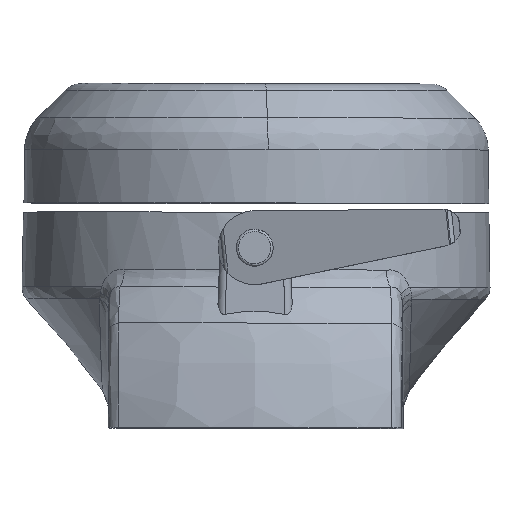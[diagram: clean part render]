
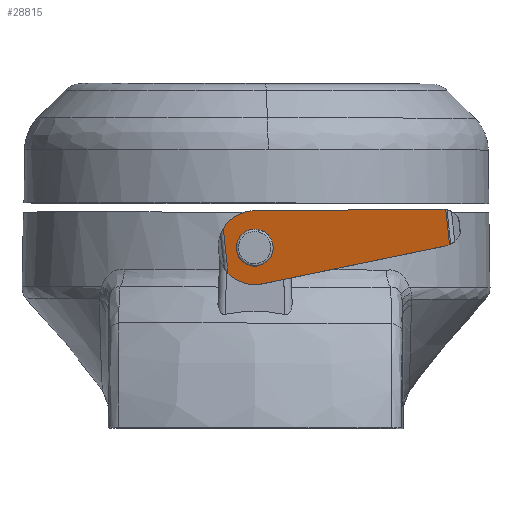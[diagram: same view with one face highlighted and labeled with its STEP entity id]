
A CAD part, top view. The second image highlights one B-rep face of the part: STEP entity #28815.
In plain terms, the highlighted planar face has unit normal (-0.261, -0.027, 0.965) as drawn and (-0.261, 0.004, -0.965) by its records, which use the part's own axes.
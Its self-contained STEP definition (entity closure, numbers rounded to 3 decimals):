
#100 = ORIENTED_EDGE ( 'NONE', *, *, #43390, .F. ) ;
#246 = VERTEX_POINT ( 'NONE', #23335 ) ;
#1150 = CARTESIAN_POINT ( 'NONE',  ( 670.309, 174.175, -76.2 ) ) ;
#1400 = CARTESIAN_POINT ( 'NONE',  ( 670.309, 174.175, -76.2 ) ) ;
#1597 =( BOUNDED_CURVE ( )  B_SPLINE_CURVE ( 3, ( #47116, #38352, #25344, #29072 ),
 .UNSPECIFIED., .F., .F. ) 
 B_SPLINE_CURVE_WITH_KNOTS ( ( 4, 4 ),
 ( 4.615, 5.63 ),
 .UNSPECIFIED. ) 
 CURVE ( )  GEOMETRIC_REPRESENTATION_ITEM ( )  RATIONAL_B_SPLINE_CURVE ( ( 1., 0.916, 0.916, 1. ) ) 
 REPRESENTATION_ITEM ( '' )  );
#1893 = VERTEX_POINT ( 'NONE', #51466 ) ;
#2033 = CARTESIAN_POINT ( 'NONE',  ( 712.399, 178.277, -87.545 ) ) ;
#3287 = ORIENTED_EDGE ( 'NONE', *, *, #49277, .F. ) ;
#3635 = ORIENTED_EDGE ( 'NONE', *, *, #31041, .F. ) ;
#4499 = CARTESIAN_POINT ( 'NONE',  ( 678.305, 186.183, -78.308 ) ) ;
#4565 = ORIENTED_EDGE ( 'NONE', *, *, #28477, .F. ) ;
#5069 = CARTESIAN_POINT ( 'NONE',  ( 667.765, 174.172, -75.513 ) ) ;
#8161 = CARTESIAN_POINT ( 'NONE',  ( 663.969, 187.043, -74.434 ) ) ;
#8180 = VERTEX_POINT ( 'NONE', #32271 ) ;
#8367 = EDGE_LOOP ( 'NONE', ( #10186, #3287 ) ) ;
#8793 = AXIS2_PLACEMENT_3D ( 'NONE', #50623, #23976, #28476 ) ;
#9108 = CARTESIAN_POINT ( 'NONE',  ( 670.817, 174.187, -76.337 ) ) ;
#9128 = FACE_BOUND ( 'NONE', #8367, .T. ) ;
#9554 = EDGE_CURVE ( 'NONE', #1893, #8180, #48031, .T. ) ;
#9689 = CARTESIAN_POINT ( 'NONE',  ( 670.563, 174.175, -76.269 ) ) ;
#10186 = ORIENTED_EDGE ( 'NONE', *, *, #53359, .F. ) ;
#10669 = CARTESIAN_POINT ( 'NONE',  ( 670.309, 186.175, -76.149 ) ) ;
#11026 = CARTESIAN_POINT ( 'NONE',  ( 712.16, 178.207, -87.481 ) ) ;
#11464 = LINE ( 'NONE', #31241, #57422 ) ;
#12956 = EDGE_LOOP ( 'NONE', ( #3635, #100, #45817, #30023, #19726, #54692, #30326, #4565, #40134 ) ) ;
#14522 = VECTOR ( 'NONE', #39456, 1000. ) ;
#14610 = CARTESIAN_POINT ( 'NONE',  ( 663.946, 177.324, -74.469 ) ) ;
#16328 = VERTEX_POINT ( 'NONE', #36273 ) ;
#16460 = CARTESIAN_POINT ( 'NONE',  ( 711.688, 186.098, -87.32 ) ) ;
#17037 = DIRECTION ( 'NONE',  ( 0.961, 0.093, -0.259 ) ) ;
#17757 =( BOUNDED_CURVE ( )  B_SPLINE_CURVE ( 3, ( #39730, #4499, #18730, #27692 ),
 .UNSPECIFIED., .F., .T. ) 
 B_SPLINE_CURVE_WITH_KNOTS ( ( 4, 4 ),
 ( 1.568, 4.71 ),
 .UNSPECIFIED. ) 
 CURVE ( )  GEOMETRIC_REPRESENTATION_ITEM ( )  RATIONAL_B_SPLINE_CURVE ( ( 1., 0.333, 0.333, 1. ) ) 
 REPRESENTATION_ITEM ( '' )  );
#18730 = CARTESIAN_POINT ( 'NONE',  ( 678.305, 178.183, -78.341 ) ) ;
#19726 = ORIENTED_EDGE ( 'NONE', *, *, #36887, .F. ) ;
#20036 = CARTESIAN_POINT ( 'NONE',  ( 711.669, 178.137, -87.348 ) ) ;
#20569 = CARTESIAN_POINT ( 'NONE',  ( 670.309, 186.175, -76.149 ) ) ;
#21372 =( BOUNDED_CURVE ( )  B_SPLINE_CURVE ( 3, ( #14610, #23567, #5069, #1150 ),
 .UNSPECIFIED., .F., .T. ) 
 B_SPLINE_CURVE_WITH_KNOTS ( ( 4, 4 ),
 ( 0.653, 1.573 ),
 .UNSPECIFIED. ) 
 CURVE ( )  GEOMETRIC_REPRESENTATION_ITEM ( )  RATIONAL_B_SPLINE_CURVE ( ( 1., 0.931, 0.931, 1. ) ) 
 REPRESENTATION_ITEM ( '' )  );
#22093 = VERTEX_POINT ( 'NONE', #29040 ) ;
#22673 =( BOUNDED_CURVE ( )  B_SPLINE_CURVE ( 3, ( #43653, #38593, #56910, #16460 ),
 .UNSPECIFIED., .F., .F. ) 
 B_SPLINE_CURVE_WITH_KNOTS ( ( 4, 4 ),
 ( 4.428, 4.615 ),
 .UNSPECIFIED. ) 
 CURVE ( )  GEOMETRIC_REPRESENTATION_ITEM ( )  RATIONAL_B_SPLINE_CURVE ( ( 1., 0.997, 0.997, 1. ) ) 
 REPRESENTATION_ITEM ( '' )  );
#22680 = EDGE_CURVE ( 'NONE', #246, #16328, #11464, .T. ) ;
#23335 = CARTESIAN_POINT ( 'NONE',  ( 711.688, 186.098, -87.32 ) ) ;
#23567 = CARTESIAN_POINT ( 'NONE',  ( 665.486, 175.3, -74.893 ) ) ;
#23976 = DIRECTION ( 'NONE',  ( 0.261, -0.004, 0.965 ) ) ;
#24288 = LINE ( 'NONE', #48012, #14522 ) ;
#24542 = CARTESIAN_POINT ( 'NONE',  ( 663.946, 177.324, -74.469 ) ) ;
#25344 = CARTESIAN_POINT ( 'NONE',  ( 665.694, 189.29, -74.89 ) ) ;
#25354 = VERTEX_POINT ( 'NONE', #1400 ) ;
#25430 = EDGE_CURVE ( 'NONE', #16328, #45873, #1597, .T. ) ;
#26595 = DIRECTION ( 'NONE',  ( -0.961, 0.096, 0.26 ) ) ;
#27282 =( BOUNDED_CURVE ( )  B_SPLINE_CURVE ( 3, ( #51461, #37431, #11026, #2033 ),
 .UNSPECIFIED., .F., .T. ) 
 B_SPLINE_CURVE_WITH_KNOTS ( ( 4, 4 ),
 ( 1.669, 1.855 ),
 .UNSPECIFIED. ) 
 CURVE ( )  GEOMETRIC_REPRESENTATION_ITEM ( )  RATIONAL_B_SPLINE_CURVE ( ( 1., 0.997, 0.997, 1. ) ) 
 REPRESENTATION_ITEM ( '' )  );
#27692 = CARTESIAN_POINT ( 'NONE',  ( 670.309, 178.175, -76.183 ) ) ;
#28476 = DIRECTION ( 'NONE',  ( 0.965, 0., -0.261 ) ) ;
#28477 = EDGE_CURVE ( 'NONE', #8180, #246, #22673, .T. ) ;
#28589 = VECTOR ( 'NONE', #48005, 1000. ) ;
#28815 = ADVANCED_FACE ( 'NONE', ( #9128, #34841 ), #38355, .F. ) ;
#29040 = CARTESIAN_POINT ( 'NONE',  ( 671.07, 174.212, -76.405 ) ) ;
#29072 = CARTESIAN_POINT ( 'NONE',  ( 663.969, 187.043, -74.434 ) ) ;
#30023 = ORIENTED_EDGE ( 'NONE', *, *, #50430, .F. ) ;
#30326 = ORIENTED_EDGE ( 'NONE', *, *, #22680, .F. ) ;
#30927 = EDGE_CURVE ( 'NONE', #25354, #22093, #37572, .T. ) ;
#30967 =( BOUNDED_CURVE ( )  B_SPLINE_CURVE ( 3, ( #54989, #36867, #33974, #20569 ),
 .UNSPECIFIED., .F., .F. ) 
 B_SPLINE_CURVE_WITH_KNOTS ( ( 4, 4 ),
 ( 4.71, 7.852 ),
 .UNSPECIFIED. ) 
 CURVE ( )  GEOMETRIC_REPRESENTATION_ITEM ( )  RATIONAL_B_SPLINE_CURVE ( ( 1., 0.333, 0.333, 1. ) ) 
 REPRESENTATION_ITEM ( '' )  );
#31041 = EDGE_CURVE ( 'NONE', #36640, #1893, #27282, .T. ) ;
#31241 = CARTESIAN_POINT ( 'NONE',  ( 711.688, 186.098, -87.32 ) ) ;
#31268 = CARTESIAN_POINT ( 'NONE',  ( 670.309, 174.175, -76.2 ) ) ;
#32271 = CARTESIAN_POINT ( 'NONE',  ( 712.417, 185.956, -87.517 ) ) ;
#33974 = CARTESIAN_POINT ( 'NONE',  ( 662.313, 186.167, -73.99 ) ) ;
#34841 = FACE_OUTER_BOUND ( 'NONE', #12956, .T. ) ;
#36273 = CARTESIAN_POINT ( 'NONE',  ( 671.108, 190.135, -76.348 ) ) ;
#36640 = VERTEX_POINT ( 'NONE', #20036 ) ;
#36867 = CARTESIAN_POINT ( 'NONE',  ( 662.313, 178.167, -74.024 ) ) ;
#36887 = EDGE_CURVE ( 'NONE', #45873, #46821, #24288, .T. ) ;
#37431 = CARTESIAN_POINT ( 'NONE',  ( 711.916, 178.161, -87.415 ) ) ;
#37572 =( BOUNDED_CURVE ( )  B_SPLINE_CURVE ( 3, ( #31268, #9689, #9108, #53628 ),
 .UNSPECIFIED., .F., .T. ) 
 B_SPLINE_CURVE_WITH_KNOTS ( ( 4, 4 ),
 ( 1.573, 1.669 ),
 .UNSPECIFIED. ) 
 CURVE ( )  GEOMETRIC_REPRESENTATION_ITEM ( )  RATIONAL_B_SPLINE_CURVE ( ( 1., 0.999, 0.999, 1. ) ) 
 REPRESENTATION_ITEM ( '' )  );
#37732 = CARTESIAN_POINT ( 'NONE',  ( 670.309, 178.175, -76.183 ) ) ;
#38352 = CARTESIAN_POINT ( 'NONE',  ( 668.292, 190.416, -75.586 ) ) ;
#38355 = PLANE ( 'NONE',  #8793 ) ;
#38593 = CARTESIAN_POINT ( 'NONE',  ( 712.179, 186.026, -87.453 ) ) ;
#39456 = DIRECTION ( 'NONE',  ( -0.002, -1., -0.004 ) ) ;
#39730 = CARTESIAN_POINT ( 'NONE',  ( 670.309, 186.175, -76.149 ) ) ;
#40053 = VERTEX_POINT ( 'NONE', #37732 ) ;
#40134 = ORIENTED_EDGE ( 'NONE', *, *, #9554, .F. ) ;
#43390 = EDGE_CURVE ( 'NONE', #22093, #36640, #54603, .T. ) ;
#43648 = CARTESIAN_POINT ( 'NONE',  ( 671.07, 174.212, -76.405 ) ) ;
#43653 = CARTESIAN_POINT ( 'NONE',  ( 712.417, 185.956, -87.517 ) ) ;
#44157 = VECTOR ( 'NONE', #17037, 1000. ) ;
#45817 = ORIENTED_EDGE ( 'NONE', *, *, #30927, .F. ) ;
#45873 = VERTEX_POINT ( 'NONE', #8161 ) ;
#46821 = VERTEX_POINT ( 'NONE', #24542 ) ;
#47116 = CARTESIAN_POINT ( 'NONE',  ( 671.108, 190.135, -76.348 ) ) ;
#48005 = DIRECTION ( 'NONE',  ( 0.002, 1., 0.004 ) ) ;
#48012 = CARTESIAN_POINT ( 'NONE',  ( 663.969, 187.043, -74.434 ) ) ;
#48031 = LINE ( 'NONE', #52292, #28589 ) ;
#49277 = EDGE_CURVE ( 'NONE', #54320, #40053, #17757, .T. ) ;
#50430 = EDGE_CURVE ( 'NONE', #46821, #25354, #21372, .T. ) ;
#50623 = CARTESIAN_POINT ( 'NONE',  ( 712.432, 192.116, -87.495 ) ) ;
#51461 = CARTESIAN_POINT ( 'NONE',  ( 711.669, 178.137, -87.348 ) ) ;
#51466 = CARTESIAN_POINT ( 'NONE',  ( 712.399, 178.277, -87.545 ) ) ;
#52292 = CARTESIAN_POINT ( 'NONE',  ( 712.399, 178.277, -87.545 ) ) ;
#53359 = EDGE_CURVE ( 'NONE', #40053, #54320, #30967, .T. ) ;
#53628 = CARTESIAN_POINT ( 'NONE',  ( 671.07, 174.212, -76.405 ) ) ;
#54320 = VERTEX_POINT ( 'NONE', #10669 ) ;
#54603 = LINE ( 'NONE', #43648, #44157 ) ;
#54692 = ORIENTED_EDGE ( 'NONE', *, *, #25430, .F. ) ;
#54989 = CARTESIAN_POINT ( 'NONE',  ( 670.309, 178.175, -76.183 ) ) ;
#56910 = CARTESIAN_POINT ( 'NONE',  ( 711.935, 186.074, -87.387 ) ) ;
#57422 = VECTOR ( 'NONE', #26595, 1000. ) ;
